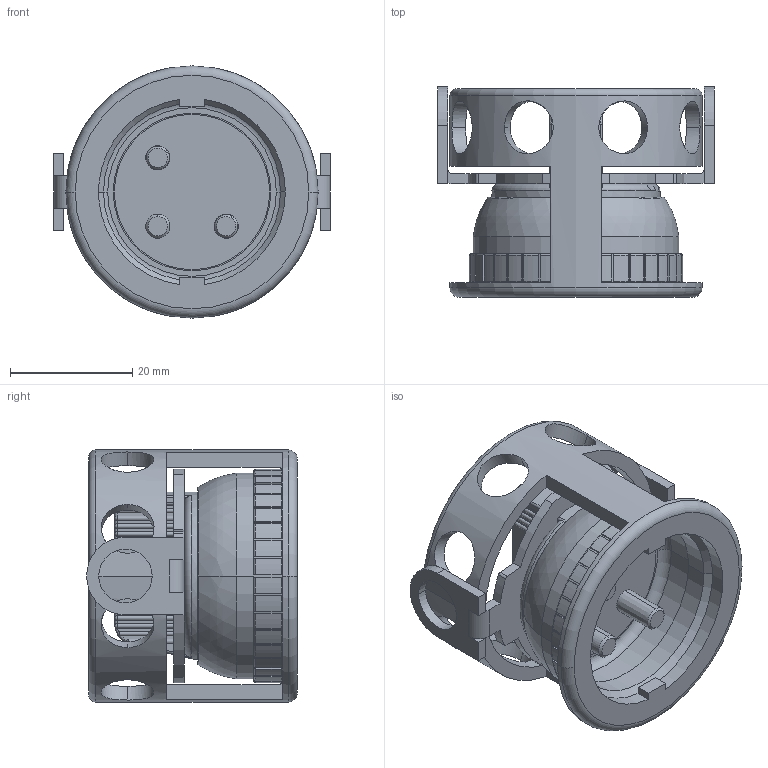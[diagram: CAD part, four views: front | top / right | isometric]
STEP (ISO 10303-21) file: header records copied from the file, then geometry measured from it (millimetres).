
FILE_DESCRIPTION((''),'2;1');
FILE_NAME('10006254542','2023-11-08T17:15:20',('SSahu1'),('Rockwell Automation'),'CREO PARAMETRIC BY PTC INC, 2022424','CREO PARAMETRIC BY PTC INC, 2022424','');
FILE_SCHEMA(('CONFIG_CONTROL_DESIGN'));
Length unit declared in the file: inch
Products named in the file (1): 10006254542
Bounding box: 45.21 x 34.47 x 41.25 mm (x, y, z)
Volume: 13529.7 mm3; surface area: 15395.8 mm2
Topology: 1 solids, 1 shells, 710 faces, 1867 edges, 1147 vertices
Faces by surface type: plane 344, cylinder 219, torus 102, sphere 22, cone 15, bspline 8
Entity records: 23325 total; most frequent: CARTESIAN_POINT 6143, ORIENTED_EDGE 3702, DIRECTION 3440, EDGE_CURVE 1851, AXIS2_PLACEMENT_3D 1213, VERTEX_POINT 1147, VECTOR 1014, LINE 1014
